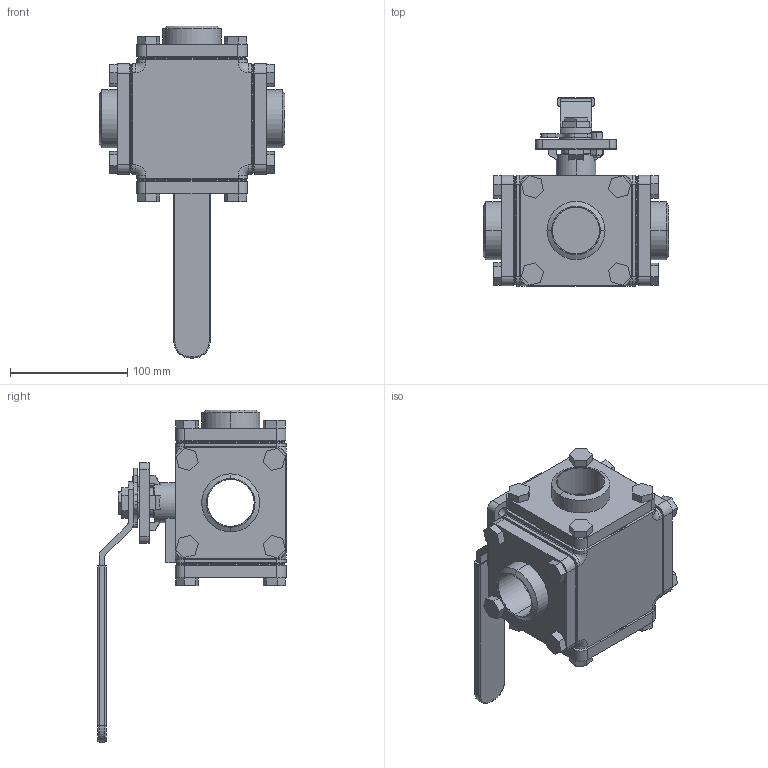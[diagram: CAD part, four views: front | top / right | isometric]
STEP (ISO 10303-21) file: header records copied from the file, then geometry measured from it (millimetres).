
FILE_DESCRIPTION (( 'STEP AP214' ), '1' );
FILE_NAME ('S350D DN40 BW HB.step', '2010-10-22T12:11:38', ( '' ), ( '' ), 'SwSTEP 2.0', 'SolidWorks 2010', '' );
FILE_SCHEMA (( 'AUTOMOTIVE_DESIGN' ));
Length unit declared in the file: millimetre
Products named in the file (7): S350D KK DN40 PN50; S350D Hendel DN40; DIN 912 M6 x 16 --- 16N_DIN 912 M6 x 16 --- 16N; Hexagon Nut ISO 4032 - M6 - D - N_Hexagon Nut ISO 4032 - M6 - D - N; S350D Blindflens DN40; S350D Buttweld DN40; S350D DN40 BW HB
Assembly tree (8 placements, depth 2):
  S350D DN40 BW HB
    Hexagon Nut ISO 4032 - M6 - D - N_Hexagon Nut ISO 4032 - M6 - D - N
    S350D Buttweld DN40  x3
    S350D Hendel DN40
    DIN 912 M6 x 16 --- 16N_DIN 912 M6 x 16 --- 16N
    S350D KK DN40 PN50
    S350D Blindflens DN40
Bounding box: 158.4 x 160.5 x 282.95 mm (x, y, z)
Volume: 1307304.5 mm3; surface area: 219661.5 mm2
Topology: 8 solids, 9 shells, 538 faces, 1340 edges, 847 vertices
Faces by surface type: plane 333, cylinder 147, cone 42, torus 16
Entity records: 13618 total; most frequent: CARTESIAN_POINT 2392, DIRECTION 2320, ORIENTED_EDGE 2188, EDGE_CURVE 1094, AXIS2_PLACEMENT_3D 815, LINE 690, VECTOR 690, VERTEX_POINT 687
